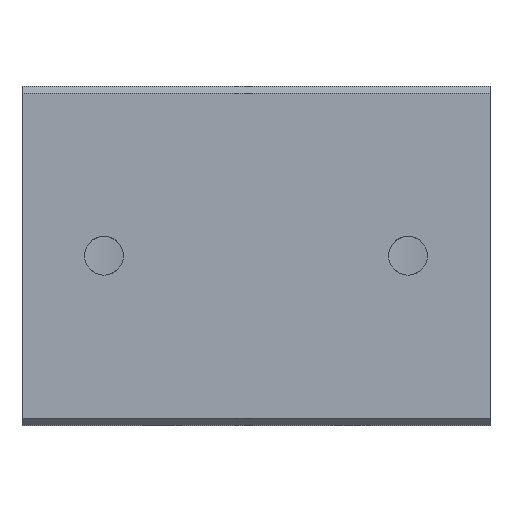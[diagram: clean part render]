
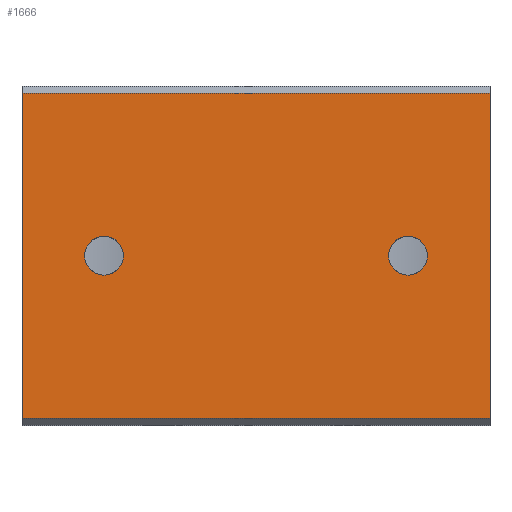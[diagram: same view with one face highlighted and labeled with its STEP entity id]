
A CAD part, top view. The second image highlights one B-rep face of the part: STEP entity #1666.
In plain terms, the highlighted planar face has unit normal (0, 0, 1).
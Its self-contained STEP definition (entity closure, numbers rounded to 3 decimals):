
#1514=CARTESIAN_POINT('',(80.0,-27.8,38.));
#1515=VERTEX_POINT('',#1514);
#1522=CARTESIAN_POINT('',(0.0,-27.8,38.));
#1523=VERTEX_POINT('',#1522);
#1524=CARTESIAN_POINT('',(80.0,-27.8,38.));
#1525=DIRECTION('',(-1.0,0.0,0.0));
#1526=VECTOR('',#1525,80.0);
#1527=LINE('',#1524,#1526);
#1528=EDGE_CURVE('',#1515,#1523,#1527,.T.);
#1553=CARTESIAN_POINT('',(0.0,27.8,38.));
#1554=VERTEX_POINT('',#1553);
#1555=CARTESIAN_POINT('',(0.0,-27.8,38.));
#1556=DIRECTION('',(0.0,1.0,0.0));
#1557=VECTOR('',#1556,55.6);
#1558=LINE('',#1555,#1557);
#1559=EDGE_CURVE('',#1523,#1554,#1558,.T.);
#1621=CARTESIAN_POINT('',(0.0,-29.0,38.));
#1622=DIRECTION('',(0.0,0.0,1.0));
#1623=DIRECTION('',(1.0,0.0,0.0));
#1624=AXIS2_PLACEMENT_3D('',#1621,#1622,#1623);
#1625=PLANE('',#1624);
#1626=ORIENTED_EDGE('',*,*,#1528,.F.);
#1627=CARTESIAN_POINT('',(80.0,27.8,38.));
#1628=VERTEX_POINT('',#1627);
#1629=CARTESIAN_POINT('',(80.0,-27.8,38.));
#1630=DIRECTION('',(0.0,1.0,0.0));
#1631=VECTOR('',#1630,55.6);
#1632=LINE('',#1629,#1631);
#1633=EDGE_CURVE('',#1515,#1628,#1632,.T.);
#1634=ORIENTED_EDGE('',*,*,#1633,.T.);
#1635=CARTESIAN_POINT('',(0.0,27.8,38.));
#1636=DIRECTION('',(1.0,0.0,0.0));
#1637=VECTOR('',#1636,80.0);
#1638=LINE('',#1635,#1637);
#1639=EDGE_CURVE('',#1554,#1628,#1638,.T.);
#1640=ORIENTED_EDGE('',*,*,#1639,.F.);
#1641=ORIENTED_EDGE('',*,*,#1559,.F.);
#1642=EDGE_LOOP('',(#1626,#1634,#1640,#1641));
#1643=FACE_OUTER_BOUND('',#1642,.T.);
#1644=CARTESIAN_POINT('',(17.323,0.0,38.0));
#1645=VERTEX_POINT('',#1644);
#1646=CARTESIAN_POINT('',(14.,0.0,38.));
#1647=DIRECTION('',(0.0,0.0,-1.0));
#1648=DIRECTION('',(1.0,0.0,0.0));
#1649=AXIS2_PLACEMENT_3D('',#1646,#1647,#1648);
#1650=CIRCLE('',#1649,3.324);
#1651=EDGE_CURVE('',#1645,#1645,#1650,.T.);
#1652=ORIENTED_EDGE('',*,*,#1651,.T.);
#1653=EDGE_LOOP('',(#1652));
#1654=FACE_BOUND('',#1653,.T.);
#1655=CARTESIAN_POINT('',(69.323,0.,38.0));
#1656=VERTEX_POINT('',#1655);
#1657=CARTESIAN_POINT('',(66.0,0.,38.));
#1658=DIRECTION('',(0.0,0.0,-1.0));
#1659=DIRECTION('',(1.0,0.0,0.0));
#1660=AXIS2_PLACEMENT_3D('',#1657,#1658,#1659);
#1661=CIRCLE('',#1660,3.324);
#1662=EDGE_CURVE('',#1656,#1656,#1661,.T.);
#1663=ORIENTED_EDGE('',*,*,#1662,.T.);
#1664=EDGE_LOOP('',(#1663));
#1665=FACE_BOUND('',#1664,.T.);
#1666=ADVANCED_FACE('',(#1643,#1654,#1665),#1625,.T.);
